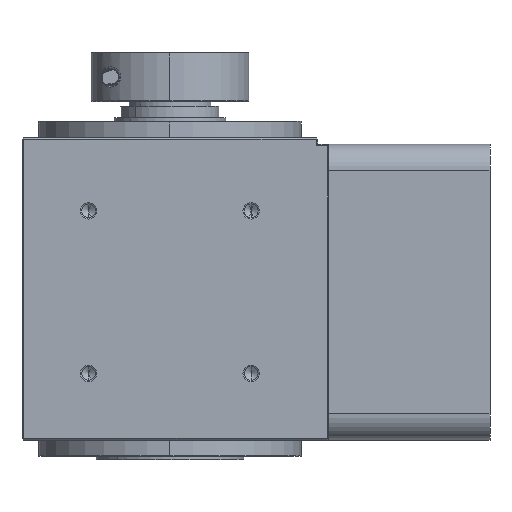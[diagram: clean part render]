
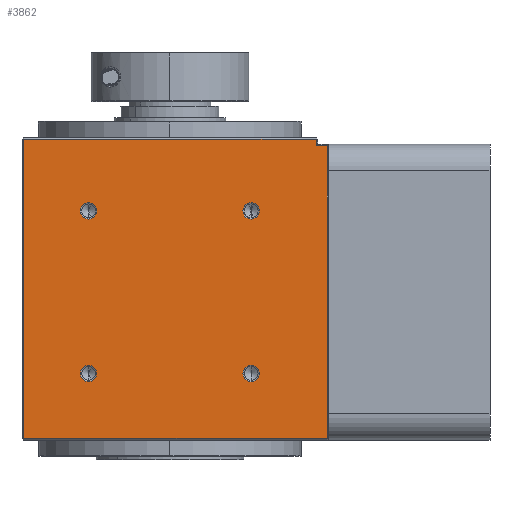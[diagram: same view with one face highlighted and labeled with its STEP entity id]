
A CAD part, left-side view. The second image highlights one B-rep face of the part: STEP entity #3862.
In plain terms, the highlighted planar face has unit normal (-1, 0, 0) as drawn and (1, 0, 0) by its records, which use the part's own axes.
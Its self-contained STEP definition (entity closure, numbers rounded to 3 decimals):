
#567 = LINE ( 'NONE', #8014, #32142 ) ;
#692 = VERTEX_POINT ( 'NONE', #34690 ) ;
#936 = CARTESIAN_POINT ( 'NONE',  ( 45., -24.749, 74.249 ) ) ;
#1088 = CARTESIAN_POINT ( 'NONE',  ( 45., -24.749, 27.251 ) ) ;
#1890 = ORIENTED_EDGE ( 'NONE', *, *, #16741, .F. ) ;
#2206 = EDGE_CURVE ( 'NONE', #34302, #25549, #23023, .T. ) ;
#2499 = CIRCLE ( 'NONE', #28113, 2.5 ) ;
#3052 = FACE_BOUND ( 'NONE', #5751, .T. ) ;
#3862 = ADVANCED_FACE ( 'NONE', ( #35526, #19326, #11604, #3052, #17501 ), #8083, .F. ) ;
#4100 = LINE ( 'NONE', #34747, #33868 ) ;
#4201 = ORIENTED_EDGE ( 'NONE', *, *, #28538, .T. ) ;
#4308 = DIRECTION ( 'NONE',  ( 0., -1., 0. ) ) ;
#4771 = VECTOR ( 'NONE', #15184, 1000. ) ;
#5099 = EDGE_LOOP ( 'NONE', ( #19818, #25602 ) ) ;
#5254 = DIRECTION ( 'NONE',  ( 1., 0., 0. ) ) ;
#5280 = CIRCLE ( 'NONE', #37118, 2.5 ) ;
#5751 = EDGE_LOOP ( 'NONE', ( #32383, #18910 ) ) ;
#6339 = CARTESIAN_POINT ( 'NONE',  ( 45., 24.749, 76.749 ) ) ;
#7114 = ORIENTED_EDGE ( 'NONE', *, *, #25372, .F. ) ;
#7150 = VERTEX_POINT ( 'NONE', #32985 ) ;
#7663 = EDGE_LOOP ( 'NONE', ( #1890, #34899 ) ) ;
#8014 = CARTESIAN_POINT ( 'NONE',  ( 45., -47.93, 102. ) ) ;
#8041 = CARTESIAN_POINT ( 'NONE',  ( 45., -24.749, 76.749 ) ) ;
#8083 = PLANE ( 'NONE',  #10244 ) ;
#8723 = ORIENTED_EDGE ( 'NONE', *, *, #29535, .T. ) ;
#8736 = VERTEX_POINT ( 'NONE', #18480 ) ;
#8992 = CARTESIAN_POINT ( 'NONE',  ( 45., 24.749, 27.251 ) ) ;
#9209 = DIRECTION ( 'NONE',  ( 1., 0., 0. ) ) ;
#9250 = DIRECTION ( 'NONE',  ( 1., 0., 0. ) ) ;
#9404 = VECTOR ( 'NONE', #20193, 1000. ) ;
#9668 = CARTESIAN_POINT ( 'NONE',  ( 45., -47.93, 96.5 ) ) ;
#9788 = EDGE_CURVE ( 'NONE', #692, #23403, #34637, .T. ) ;
#9971 = CARTESIAN_POINT ( 'NONE',  ( 45., -24.749, 29.751 ) ) ;
#10244 = AXIS2_PLACEMENT_3D ( 'NONE', #28339, #22320, #31250 ) ;
#10393 = VERTEX_POINT ( 'NONE', #25961 ) ;
#10431 = AXIS2_PLACEMENT_3D ( 'NONE', #31721, #11284, #14222 ) ;
#11156 = ORIENTED_EDGE ( 'NONE', *, *, #36573, .F. ) ;
#11284 = DIRECTION ( 'NONE',  ( 1., 0., 0. ) ) ;
#11311 = DIRECTION ( 'NONE',  ( 0., 0., -1. ) ) ;
#11353 = CARTESIAN_POINT ( 'NONE',  ( 45., -24.749, 24.751 ) ) ;
#11512 = LINE ( 'NONE', #18069, #4771 ) ;
#11574 = EDGE_CURVE ( 'NONE', #37350, #36332, #2499, .T. ) ;
#11604 = FACE_BOUND ( 'NONE', #7663, .T. ) ;
#12740 = CARTESIAN_POINT ( 'NONE',  ( 45., 44.5, 96.5 ) ) ;
#13107 = DIRECTION ( 'NONE',  ( 0., 0., -1. ) ) ;
#13609 = AXIS2_PLACEMENT_3D ( 'NONE', #27466, #30349, #13107 ) ;
#14222 = DIRECTION ( 'NONE',  ( 0., 0., -1. ) ) ;
#14392 = LINE ( 'NONE', #34522, #9404 ) ;
#14580 = CIRCLE ( 'NONE', #29044, 2.5 ) ;
#14793 = CARTESIAN_POINT ( 'NONE',  ( 45., 24.749, 27.251 ) ) ;
#15097 = EDGE_LOOP ( 'NONE', ( #4201, #31460, #15786, #8723, #19943, #15287 ) ) ;
#15184 = DIRECTION ( 'NONE',  ( 0., 1., 0. ) ) ;
#15287 = ORIENTED_EDGE ( 'NONE', *, *, #21248, .T. ) ;
#15786 = ORIENTED_EDGE ( 'NONE', *, *, #32305, .T. ) ;
#16741 = EDGE_CURVE ( 'NONE', #25549, #34302, #5280, .T. ) ;
#17501 = FACE_BOUND ( 'NONE', #25664, .T. ) ;
#17708 = DIRECTION ( 'NONE',  ( 0., 0., -1. ) ) ;
#17720 = VERTEX_POINT ( 'NONE', #9668 ) ;
#18069 = CARTESIAN_POINT ( 'NONE',  ( 45., -45., 7.5 ) ) ;
#18180 = EDGE_CURVE ( 'NONE', #36332, #37350, #20107, .T. ) ;
#18480 = CARTESIAN_POINT ( 'NONE',  ( 45., -44.5, 5.5 ) ) ;
#18910 = ORIENTED_EDGE ( 'NONE', *, *, #9788, .F. ) ;
#19326 = FACE_BOUND ( 'NONE', #5099, .T. ) ;
#19687 = DIRECTION ( 'NONE',  ( 1., 0., 0. ) ) ;
#19818 = ORIENTED_EDGE ( 'NONE', *, *, #18180, .F. ) ;
#19940 = VERTEX_POINT ( 'NONE', #34706 ) ;
#19943 = ORIENTED_EDGE ( 'NONE', *, *, #35792, .T. ) ;
#20107 = CIRCLE ( 'NONE', #10431, 2.5 ) ;
#20171 = VECTOR ( 'NONE', #4308, 1000. ) ;
#20193 = DIRECTION ( 'NONE',  ( 0., 1., 0. ) ) ;
#20203 = DIRECTION ( 'NONE',  ( 0., 0., 1. ) ) ;
#20348 = EDGE_CURVE ( 'NONE', #23403, #692, #14580, .T. ) ;
#21248 = EDGE_CURVE ( 'NONE', #17720, #33980, #567, .T. ) ;
#21597 = CARTESIAN_POINT ( 'NONE',  ( 45., -48.43, 96.5 ) ) ;
#22320 = DIRECTION ( 'NONE',  ( -1., 0., 0. ) ) ;
#22574 = CARTESIAN_POINT ( 'NONE',  ( 45., -24.749, 76.749 ) ) ;
#22626 = CARTESIAN_POINT ( 'NONE',  ( 45., -24.749, 79.249 ) ) ;
#22647 = DIRECTION ( 'NONE',  ( 0., 0., -1. ) ) ;
#23023 = CIRCLE ( 'NONE', #23514, 2.5 ) ;
#23403 = VERTEX_POINT ( 'NONE', #35274 ) ;
#23477 = DIRECTION ( 'NONE',  ( 0., 0., -1. ) ) ;
#23514 = AXIS2_PLACEMENT_3D ( 'NONE', #8041, #5254, #22647 ) ;
#25320 = CARTESIAN_POINT ( 'NONE',  ( 45., -47.93, 7.5 ) ) ;
#25372 = EDGE_CURVE ( 'NONE', #30366, #19940, #28801, .T. ) ;
#25549 = VERTEX_POINT ( 'NONE', #936 ) ;
#25602 = ORIENTED_EDGE ( 'NONE', *, *, #11574, .F. ) ;
#25664 = EDGE_LOOP ( 'NONE', ( #7114, #11156 ) ) ;
#25768 = LINE ( 'NONE', #34413, #36567 ) ;
#25961 = CARTESIAN_POINT ( 'NONE',  ( 45., -44.5, 7.5 ) ) ;
#26002 = LINE ( 'NONE', #21597, #20171 ) ;
#27466 = CARTESIAN_POINT ( 'NONE',  ( 45., 24.749, 76.749 ) ) ;
#28113 = AXIS2_PLACEMENT_3D ( 'NONE', #1088, #9250, #32717 ) ;
#28229 = CIRCLE ( 'NONE', #36575, 2.5 ) ;
#28339 = CARTESIAN_POINT ( 'NONE',  ( 45., -45., 102. ) ) ;
#28538 = EDGE_CURVE ( 'NONE', #33980, #10393, #11512, .T. ) ;
#28801 = CIRCLE ( 'NONE', #29391, 2.5 ) ;
#29044 = AXIS2_PLACEMENT_3D ( 'NONE', #6339, #29407, #23477 ) ;
#29269 = DIRECTION ( 'NONE',  ( 0., 0., -1. ) ) ;
#29307 = EDGE_CURVE ( 'NONE', #10393, #8736, #4100, .T. ) ;
#29391 = AXIS2_PLACEMENT_3D ( 'NONE', #8992, #34943, #17708 ) ;
#29407 = DIRECTION ( 'NONE',  ( 1., 0., 0. ) ) ;
#29535 = EDGE_CURVE ( 'NONE', #7150, #34752, #25768, .T. ) ;
#30349 = DIRECTION ( 'NONE',  ( 1., 0., 0. ) ) ;
#30366 = VERTEX_POINT ( 'NONE', #37023 ) ;
#31061 = DIRECTION ( 'NONE',  ( 0., 0., -1. ) ) ;
#31250 = DIRECTION ( 'NONE',  ( 0., -1., 0. ) ) ;
#31460 = ORIENTED_EDGE ( 'NONE', *, *, #29307, .T. ) ;
#31721 = CARTESIAN_POINT ( 'NONE',  ( 45., -24.749, 27.251 ) ) ;
#32142 = VECTOR ( 'NONE', #31061, 1000. ) ;
#32269 = DIRECTION ( 'NONE',  ( 0., 0., -1. ) ) ;
#32305 = EDGE_CURVE ( 'NONE', #8736, #7150, #14392, .T. ) ;
#32383 = ORIENTED_EDGE ( 'NONE', *, *, #20348, .F. ) ;
#32717 = DIRECTION ( 'NONE',  ( 0., 0., -1. ) ) ;
#32985 = CARTESIAN_POINT ( 'NONE',  ( 45., 44.5, 5.5 ) ) ;
#33868 = VECTOR ( 'NONE', #32269, 1000. ) ;
#33980 = VERTEX_POINT ( 'NONE', #25320 ) ;
#34302 = VERTEX_POINT ( 'NONE', #22626 ) ;
#34413 = CARTESIAN_POINT ( 'NONE',  ( 45., 44.5, 102. ) ) ;
#34522 = CARTESIAN_POINT ( 'NONE',  ( 45., 45., 5.5 ) ) ;
#34637 = CIRCLE ( 'NONE', #13609, 2.5 ) ;
#34690 = CARTESIAN_POINT ( 'NONE',  ( 45., 24.749, 79.249 ) ) ;
#34706 = CARTESIAN_POINT ( 'NONE',  ( 45., 24.749, 29.751 ) ) ;
#34747 = CARTESIAN_POINT ( 'NONE',  ( 45., -44.5, 102. ) ) ;
#34752 = VERTEX_POINT ( 'NONE', #12740 ) ;
#34899 = ORIENTED_EDGE ( 'NONE', *, *, #2206, .F. ) ;
#34943 = DIRECTION ( 'NONE',  ( 1., 0., 0. ) ) ;
#35274 = CARTESIAN_POINT ( 'NONE',  ( 45., 24.749, 74.249 ) ) ;
#35526 = FACE_OUTER_BOUND ( 'NONE', #15097, .T. ) ;
#35792 = EDGE_CURVE ( 'NONE', #34752, #17720, #26002, .T. ) ;
#36332 = VERTEX_POINT ( 'NONE', #11353 ) ;
#36567 = VECTOR ( 'NONE', #20203, 1000. ) ;
#36573 = EDGE_CURVE ( 'NONE', #19940, #30366, #28229, .T. ) ;
#36575 = AXIS2_PLACEMENT_3D ( 'NONE', #14793, #9209, #29269 ) ;
#37023 = CARTESIAN_POINT ( 'NONE',  ( 45., 24.749, 24.751 ) ) ;
#37118 = AXIS2_PLACEMENT_3D ( 'NONE', #22574, #19687, #11311 ) ;
#37350 = VERTEX_POINT ( 'NONE', #9971 ) ;
